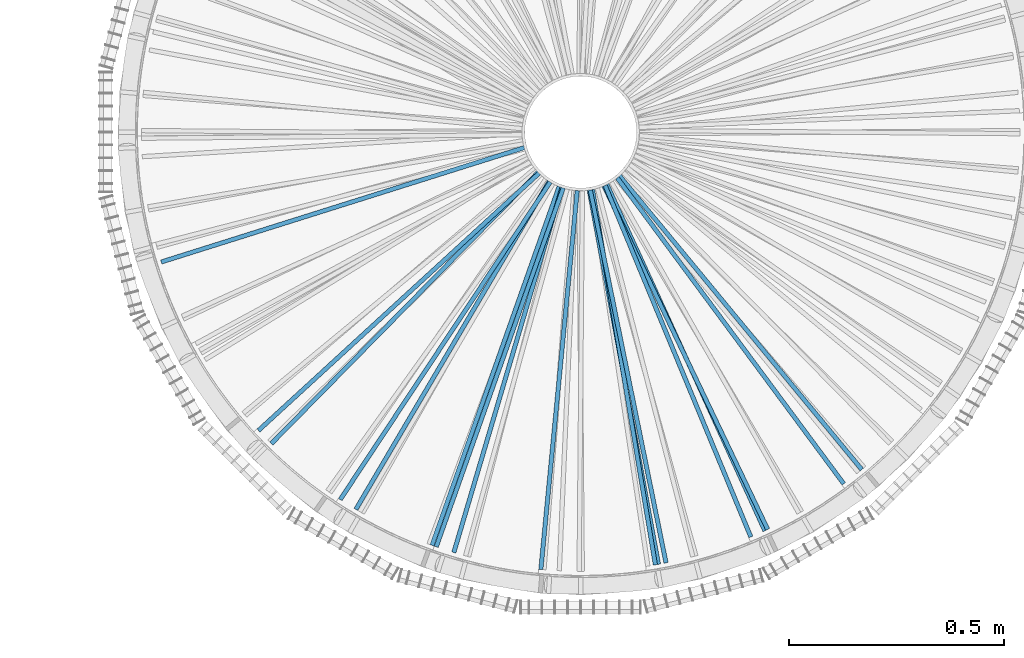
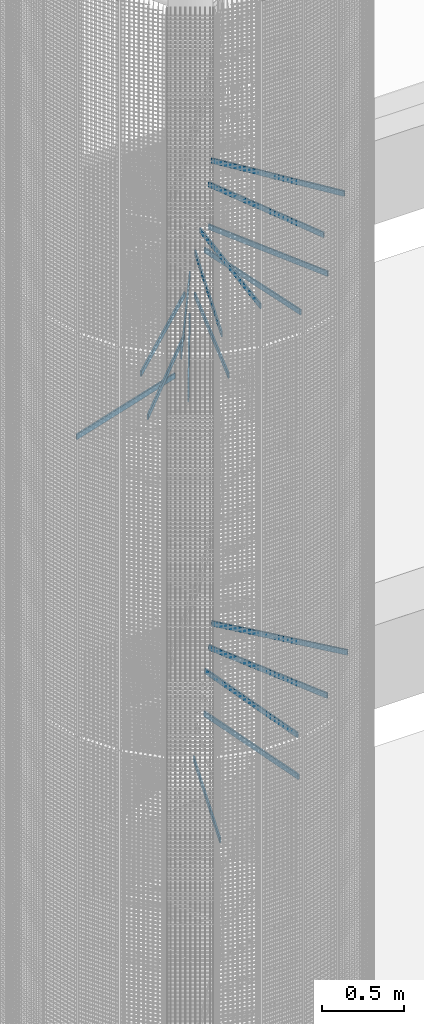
# One storey, part 176 of 1183: 17 beams, 2 elements without a shape of their own.
"""IFC2X3 building model written with IfcOpenShell, lengths in millimetres."""

from ifc_helpers import new_model, si_unit, frame, origin_with_axes, origin_2d_with_axis, place, context, subcontext, project, spatial, polyline, rectangle, outline, extrude, boolean, material, type_object, element, aggregate, save


model = new_model("IFC2X3")

# Units and contexts
model_context = context("Model", 3, precision=1e-05, world=origin_with_axes())
body_context = subcontext(model_context, "Body", "Model", "MODEL_VIEW")
ifc_project = project(units=[si_unit("LENGTHUNIT", "METRE", prefix="MILLI"), si_unit("AREAUNIT", "SQUARE_METRE"), si_unit("VOLUMEUNIT", "CUBIC_METRE"), si_unit("MASSUNIT", "GRAM", prefix="KILO"), si_unit("TIMEUNIT", "SECOND"), si_unit("PLANEANGLEUNIT", "RADIAN"), si_unit("SOLIDANGLEUNIT", "STERADIAN"), si_unit("THERMODYNAMICTEMPERATUREUNIT", "DEGREE_CELSIUS"), si_unit("LUMINOUSINTENSITYUNIT", "LUMEN")], contexts=[model_context])

# Site, building, storey
site_placement = place(None, origin_with_axes())
site = spatial("IfcSite", under=ifc_project, at=site_placement, Name="Undefined", CompositionType="ELEMENT")
building_placement = place(site_placement, origin_with_axes())
building = spatial("IfcBuilding", under=site, at=building_placement, Name="Undefined", CompositionType="ELEMENT")
storey_placement = place(building_placement, origin_with_axes())
storey = spatial("IfcBuildingStorey", under=building, at=storey_placement, Name="Undefined", CompositionType="ELEMENT", Elevation=0.0)

# Assembly, beams
assembly_1_placement = place(storey_placement, origin_with_axes())
assembly_1 = element("IfcElementAssembly", 1, at=assembly_1_placement, inside=storey, Name="POTEAU", AssemblyPlace="NOTDEFINED", PredefinedType="NOTDEFINED")
ifc_material = material(Name="STEEL/S235JR")
beam_type = type_object("IfcBeamType", Name="PL10*40", PredefinedType="NOTDEFINED")
beam_1_placement = place(assembly_1_placement, frame((36.7496182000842, -75.5993498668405, 15544.24), z_axis=(0.0, 0.0, 1.0), x_axis=(0.382921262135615, -0.923780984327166, 0.0)))
beam_1 = element("IfcBeam", 2, at=beam_1_placement, type_object=beam_type, material=ifc_material, Name="RAIDISSEUR", context=body_context, shape_type="CSG", body=[
    boolean("DIFFERENCE", extrude(rectangle(XDim=10.0, YDim=40.0, at=origin_2d_with_axis()), frame((935.982964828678, -2.59787459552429e-14, -3.63797880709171e-12), z_axis=(-1.0, 0.0, 0.0), x_axis=(0.0, -1.0, 0.0)), (0.0, 0.0, 1.0), 935.98), extrude(outline(polyline([(0.0, 0.0), (30.5663019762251, -4.91127138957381e-11), (60.366242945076, 6.80164206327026), (87.9055294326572, 20.0638634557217), (111.803226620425, 39.1216410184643), (130.861004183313, 63.0193382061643), (144.123225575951, 90.5586246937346), (150.9248676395, 120.358565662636), (150.924867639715, 150.924867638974), (144.123225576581, 180.724808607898), (130.86100418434, 208.264095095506), (111.803226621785, 232.161792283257), (87.9055294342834, 251.219569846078), (60.3662429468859, 264.481791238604), (30.5663019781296, 271.283433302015), (1.90266291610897e-09, 271.28343330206), (-29.7999409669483, 264.481791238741), (-57.3392274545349, 251.219569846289), (-81.2369246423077, 232.161792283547), (-100.294702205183, 208.26409509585), (-113.556923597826, 180.724808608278), (-120.35856566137, 150.92486763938), (-120.358565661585, 120.358565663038), (-113.556923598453, 90.5586246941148), (-100.294702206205, 63.0193382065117), (-81.2369246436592, 39.1216410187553), (-57.3392274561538, 20.0638634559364), (-29.7999409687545, 6.80164206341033), (0.0, 0.0)])), frame((-139.305621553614, -129.753815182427, -22.4999999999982), z_axis=(0.0, 0.0, 1.0), x_axis=(0.953639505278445, -0.300951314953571, 0.0)), (0.0, 0.0, 1.0), 45.0)),
])
beam_2_placement = place(assembly_1_placement, frame((53.9471355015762, -64.4631887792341, 15700.76), z_axis=(0.0, 0.0, 1.0), x_axis=(0.595029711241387, -0.80370370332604, 0.0)))
beam_2 = element("IfcBeam", 3, at=beam_2_placement, type_object=beam_type, material=ifc_material, Name="RAIDISSEUR", context=body_context, shape_type="CSG", body=[
    boolean("DIFFERENCE", extrude(rectangle(XDim=10.0, YDim=40.0, at=origin_2d_with_axis()), frame((935.982964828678, -2.59787459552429e-14, -3.63797880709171e-12), z_axis=(-1.0, 0.0, 0.0), x_axis=(0.0, -1.0, 0.0)), (0.0, 0.0, 1.0), 935.98), extrude(outline(polyline([(0.0, 0.0), (30.5663019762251, -4.91127138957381e-11), (60.366242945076, 6.80164206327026), (87.9055294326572, 20.0638634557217), (111.803226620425, 39.1216410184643), (130.861004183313, 63.0193382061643), (144.123225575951, 90.5586246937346), (150.9248676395, 120.358565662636), (150.924867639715, 150.924867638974), (144.123225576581, 180.724808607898), (130.86100418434, 208.264095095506), (111.803226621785, 232.161792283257), (87.9055294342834, 251.219569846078), (60.3662429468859, 264.481791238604), (30.5663019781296, 271.283433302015), (1.90266291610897e-09, 271.28343330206), (-29.7999409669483, 264.481791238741), (-57.3392274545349, 251.219569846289), (-81.2369246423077, 232.161792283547), (-100.294702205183, 208.26409509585), (-113.556923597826, 180.724808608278), (-120.35856566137, 150.92486763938), (-120.358565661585, 120.358565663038), (-113.556923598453, 90.5586246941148), (-100.294702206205, 63.0193382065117), (-81.2369246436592, 39.1216410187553), (-57.3392274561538, 20.0638634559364), (-29.7999409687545, 6.80164206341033), (0.0, 0.0)])), frame((-167.840798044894, -112.646547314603, -22.5), z_axis=(0.0, 0.0, 1.0), x_axis=(0.852505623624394, -0.52271805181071, 0.0)), (0.0, 0.0, 1.0), 45.0)),
])
beam_3_placement = place(assembly_1_placement, frame((-28.6460160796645, -79.0265898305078, 14761.64), z_axis=(0.0, 0.0, 1.0), x_axis=(-0.284262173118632, -0.958746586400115, 0.0)))
beam_3 = element("IfcBeam", 4, at=beam_3_placement, type_object=beam_type, material=ifc_material, Name="RAIDISSEUR", context=body_context, shape_type="CSG", body=[
    boolean("DIFFERENCE", extrude(rectangle(XDim=10.0, YDim=40.0, at=origin_2d_with_axis()), frame((935.982964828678, -2.59787459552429e-14, -3.63797880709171e-12), z_axis=(-1.0, 0.0, 0.0), x_axis=(0.0, -1.0, 0.0)), (0.0, 0.0, 1.0), 935.98), extrude(outline(polyline([(0.0, 0.0), (30.5663019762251, -4.91127138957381e-11), (60.366242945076, 6.80164206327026), (87.9055294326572, 20.0638634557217), (111.803226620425, 39.1216410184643), (130.861004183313, 63.0193382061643), (144.123225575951, 90.5586246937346), (150.9248676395, 120.358565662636), (150.924867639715, 150.924867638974), (144.123225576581, 180.724808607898), (130.86100418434, 208.264095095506), (111.803226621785, 232.161792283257), (87.9055294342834, 251.219569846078), (60.3662429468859, 264.481791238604), (30.5663019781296, 271.283433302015), (1.90266291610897e-09, 271.28343330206), (-29.7999409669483, 264.481791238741), (-57.3392274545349, 251.219569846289), (-81.2369246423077, 232.161792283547), (-100.294702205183, 208.26409509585), (-113.556923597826, 180.724808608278), (-120.35856566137, 150.92486763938), (-120.358565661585, 120.358565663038), (-113.556923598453, 90.5586246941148), (-100.294702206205, 63.0193382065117), (-81.2369246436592, 39.1216410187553), (-57.3392274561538, 20.0638634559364), (-29.7999409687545, 6.80164206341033), (0.0, 0.0)])), frame((-48.3823783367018, -126.795588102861, -22.5), z_axis=(0.0, 0.0, 1.0), x_axis=(0.930323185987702, 0.366740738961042, 0.0)), (0.0, 0.0, 1.0), 45.0)),
])
beam_4_placement = place(assembly_1_placement, frame((-46.9133693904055, -69.7490638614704, 14605.12), z_axis=(0.0, 0.0, 1.0), x_axis=(-0.507760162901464, -0.861498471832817, 0.0)))
beam_4 = element("IfcBeam", 5, at=beam_4_placement, type_object=beam_type, material=ifc_material, Name="RAIDISSEUR", context=body_context, shape_type="CSG", body=[
    boolean("DIFFERENCE", extrude(rectangle(XDim=10.0, YDim=40.0, at=origin_2d_with_axis()), frame((935.982964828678, -2.59787459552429e-14, -3.63797880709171e-12), z_axis=(-1.0, 0.0, 0.0), x_axis=(0.0, -1.0, 0.0)), (0.0, 0.0, 1.0), 935.98), extrude(outline(polyline([(0.0, 0.0), (30.5663019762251, -4.91127138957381e-11), (60.366242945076, 6.80164206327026), (87.9055294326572, 20.0638634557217), (111.803226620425, 39.1216410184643), (130.861004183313, 63.0193382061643), (144.123225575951, 90.5586246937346), (150.9248676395, 120.358565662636), (150.924867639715, 150.924867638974), (144.123225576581, 180.724808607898), (130.86100418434, 208.264095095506), (111.803226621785, 232.161792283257), (87.9055294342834, 251.219569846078), (60.3662429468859, 264.481791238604), (30.5663019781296, 271.283433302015), (1.90266291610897e-09, 271.28343330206), (-29.7999409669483, 264.481791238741), (-57.3392274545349, 251.219569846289), (-81.2369246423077, 232.161792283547), (-100.294702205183, 208.26409509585), (-113.556923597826, 180.724808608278), (-120.35856566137, 150.92486763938), (-120.358565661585, 120.358565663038), (-113.556923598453, 90.5586246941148), (-100.294702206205, 63.0193382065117), (-81.2369246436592, 39.1216410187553), (-57.3392274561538, 20.0638634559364), (-29.7999409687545, 6.80164206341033), (0.0, 0.0)])), frame((-17.5534458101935, -114.285918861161, -22.5000000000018), z_axis=(0.0, 0.0, 1.0), x_axis=(0.813965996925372, 0.580912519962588, 0.0)), (0.0, 0.0, 1.0), 45.0)),
])
beam_5_placement = place(assembly_1_placement, frame((-62.3936675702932, -56.3278473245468, 14448.6), z_axis=(0.0, 0.0, 1.0), x_axis=(-0.701092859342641, -0.713069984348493, 0.0)))
beam_5 = element("IfcBeam", 6, at=beam_5_placement, type_object=beam_type, material=ifc_material, Name="RAIDISSEUR", context=body_context, shape_type="CSG", body=[
    boolean("DIFFERENCE", extrude(rectangle(XDim=10.0, YDim=40.0, at=origin_2d_with_axis()), frame((935.982964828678, -2.59787459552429e-14, -3.63797880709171e-12), z_axis=(-1.0, 0.0, 0.0), x_axis=(0.0, -1.0, 0.0)), (0.0, 0.0, 1.0), 935.98), extrude(outline(polyline([(0.0, 0.0), (30.5663019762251, -4.91127138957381e-11), (60.366242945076, 6.80164206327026), (87.9055294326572, 20.0638634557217), (111.803226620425, 39.1216410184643), (130.861004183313, 63.0193382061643), (144.123225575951, 90.5586246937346), (150.9248676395, 120.358565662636), (150.924867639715, 150.924867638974), (144.123225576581, 180.724808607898), (130.86100418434, 208.264095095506), (111.803226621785, 232.161792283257), (87.9055294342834, 251.219569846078), (60.3662429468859, 264.481791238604), (30.5663019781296, 271.283433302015), (1.90266291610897e-09, 271.28343330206), (-29.7999409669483, 264.481791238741), (-57.3392274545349, 251.219569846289), (-81.2369246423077, 232.161792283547), (-100.294702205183, 208.26409509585), (-113.556923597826, 180.724808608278), (-120.35856566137, 150.92486763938), (-120.358565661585, 120.358565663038), (-113.556923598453, 90.5586246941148), (-100.294702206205, 63.0193382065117), (-81.2369246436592, 39.1216410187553), (-57.3392274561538, 20.0638634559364), (-29.7999409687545, 6.80164206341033), (0.0, 0.0)])), frame((9.33337282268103, -94.6896464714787, -22.5), z_axis=(0.0, 0.0, 1.0), x_axis=(0.649252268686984, 0.760573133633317, 0.0)), (0.0, 0.0, 1.0), 45.0)),
])
beam_6_placement = place(assembly_1_placement, frame((-81.5346611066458, -20.4424845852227, 14135.56), z_axis=(0.0, 0.0, 1.0), x_axis=(-0.953794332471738, -0.300460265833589, 0.0)))
beam_6 = element("IfcBeam", 7, at=beam_6_placement, type_object=beam_type, material=ifc_material, Name="RAIDISSEUR", context=body_context, shape_type="CSG", body=[
    boolean("DIFFERENCE", extrude(rectangle(XDim=10.0, YDim=40.0, at=origin_2d_with_axis()), frame((935.982964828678, -2.59787459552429e-14, -3.63797880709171e-12), z_axis=(-1.0, 0.0, 0.0), x_axis=(0.0, -1.0, 0.0)), (0.0, 0.0, 1.0), 935.98), extrude(outline(polyline([(0.0, 0.0), (30.5663019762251, -4.91127138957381e-11), (60.366242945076, 6.80164206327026), (87.9055294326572, 20.0638634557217), (111.803226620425, 39.1216410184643), (130.861004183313, 63.0193382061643), (144.123225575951, 90.5586246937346), (150.9248676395, 120.358565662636), (150.924867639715, 150.924867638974), (144.123225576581, 180.724808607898), (130.86100418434, 208.264095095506), (111.803226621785, 232.161792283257), (87.9055294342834, 251.219569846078), (60.3662429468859, 264.481791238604), (30.5663019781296, 271.283433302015), (1.90266291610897e-09, 271.28343330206), (-29.7999409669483, 264.481791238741), (-57.3392274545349, 251.219569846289), (-81.2369246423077, 232.161792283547), (-100.294702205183, 208.26409509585), (-113.556923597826, 180.724808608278), (-120.35856566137, 150.92486763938), (-120.358565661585, 120.358565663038), (-113.556923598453, 90.5586246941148), (-100.294702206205, 63.0193382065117), (-81.2369246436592, 39.1216410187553), (-57.3392274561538, 20.0638634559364), (-29.7999409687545, 6.80164206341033), (0.0, 0.0)])), frame((45.2205298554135, -39.2458786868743, -22.5), z_axis=(0.0, 0.0, 1.0), x_axis=(0.216188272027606, 0.97635169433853, 0.0)), (0.0, 0.0, 1.0), 45.0)),
])
beam_7_placement = place(assembly_1_placement, frame((-58.4710415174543, -60.3898455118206, 14761.64), z_axis=(0.0, 0.0, 1.0), x_axis=(-0.737103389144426, -0.675779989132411, 0.0)))
beam_7 = element("IfcBeam", 8, at=beam_7_placement, type_object=beam_type, material=ifc_material, Name="RAIDISSEUR", context=body_context, shape_type="CSG", body=[
    boolean("DIFFERENCE", extrude(rectangle(XDim=10.0, YDim=40.0, at=origin_2d_with_axis()), frame((935.982964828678, -2.59787459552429e-14, -3.63797880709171e-12), z_axis=(-1.0, 0.0, 0.0), x_axis=(0.0, -1.0, 0.0)), (0.0, 0.0, 1.0), 935.98), extrude(outline(polyline([(0.0, 0.0), (30.5663019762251, -4.91127138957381e-11), (60.366242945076, 6.80164206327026), (87.9055294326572, 20.0638634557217), (111.803226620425, 39.1216410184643), (130.861004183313, 63.0193382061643), (144.123225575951, 90.5586246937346), (150.9248676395, 120.358565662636), (150.924867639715, 150.924867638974), (144.123225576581, 180.724808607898), (130.86100418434, 208.264095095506), (111.803226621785, 232.161792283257), (87.9055294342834, 251.219569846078), (60.3662429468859, 264.481791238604), (30.5663019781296, 271.283433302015), (1.90266291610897e-09, 271.28343330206), (-29.7999409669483, 264.481791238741), (-57.3392274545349, 251.219569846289), (-81.2369246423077, 232.161792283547), (-100.294702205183, 208.26409509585), (-113.556923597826, 180.724808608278), (-120.35856566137, 150.92486763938), (-120.358565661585, 120.358565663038), (-113.556923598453, 90.5586246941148), (-100.294702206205, 63.0193382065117), (-81.2369246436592, 39.1216410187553), (-57.3392274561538, 20.0638634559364), (-29.7999409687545, 6.80164206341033), (0.0, 0.0)])), frame((14.3741816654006, -99.7236894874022, -22.5), z_axis=(0.0, 0.0, 1.0), x_axis=(0.608965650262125, 0.793196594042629, 0.0)), (0.0, 0.0, 1.0), 45.0)),
])
beam_8_placement = place(assembly_1_placement, frame((-3.0437579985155, -84.003164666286, 15231.2), z_axis=(0.0, 0.0, 1.0), x_axis=(-0.0955894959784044, -0.995420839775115, 0.0)))
beam_8 = element("IfcBeam", 9, at=beam_8_placement, type_object=beam_type, material=ifc_material, Name="RAIDISSEUR", context=body_context, shape_type="CSG", body=[
    boolean("DIFFERENCE", extrude(rectangle(XDim=10.0, YDim=40.0, at=origin_2d_with_axis()), frame((935.982964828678, -2.59787459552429e-14, -3.63797880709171e-12), z_axis=(-1.0, 0.0, 0.0), x_axis=(0.0, -1.0, 0.0)), (0.0, 0.0, 1.0), 935.98), extrude(outline(polyline([(0.0, 0.0), (30.5663019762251, -4.91127138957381e-11), (60.366242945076, 6.80164206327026), (87.9055294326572, 20.0638634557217), (111.803226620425, 39.1216410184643), (130.861004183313, 63.0193382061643), (144.123225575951, 90.5586246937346), (150.9248676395, 120.358565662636), (150.924867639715, 150.924867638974), (144.123225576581, 180.724808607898), (130.86100418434, 208.264095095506), (111.803226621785, 232.161792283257), (87.9055294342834, 251.219569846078), (60.3662429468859, 264.481791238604), (30.5663019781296, 271.283433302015), (1.90266291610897e-09, 271.28343330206), (-29.7999409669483, 264.481791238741), (-57.3392274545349, 251.219569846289), (-81.2369246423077, 232.161792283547), (-100.294702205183, 208.26409509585), (-113.556923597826, 180.724808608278), (-120.35856566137, 150.92486763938), (-120.358565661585, 120.358565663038), (-113.556923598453, 90.5586246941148), (-100.294702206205, 63.0193382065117), (-81.2369246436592, 39.1216410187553), (-57.3392274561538, 20.0638634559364), (-29.7999409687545, 6.80164206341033), (0.0, 0.0)])), frame((-74.2529979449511, -141.15800711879, -22.5), z_axis=(0.0, 0.0, 1.0), x_axis=(0.983301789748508, 0.181982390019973, 0.0)), (0.0, 0.0, 1.0), 45.0)),
])
beam_9_placement = place(assembly_1_placement, frame((11.8078056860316, -83.2248271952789, 15074.68), z_axis=(0.0, 0.0, 1.0), x_axis=(0.199115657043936, -0.979975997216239, 0.0)))
beam_9 = element("IfcBeam", 10, at=beam_9_placement, type_object=beam_type, material=ifc_material, Name="RAIDISSEUR", context=body_context, shape_type="CSG", body=[
    boolean("DIFFERENCE", extrude(rectangle(XDim=10.0, YDim=40.0, at=origin_2d_with_axis()), frame((935.982964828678, -2.59787459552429e-14, -3.63797880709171e-12), z_axis=(-1.0, 0.0, 0.0), x_axis=(0.0, -1.0, 0.0)), (0.0, 0.0, 1.0), 935.98), extrude(outline(polyline([(0.0, 0.0), (30.5663019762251, -4.91127138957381e-11), (60.366242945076, 6.80164206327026), (87.9055294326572, 20.0638634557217), (111.803226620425, 39.1216410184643), (130.861004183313, 63.0193382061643), (144.123225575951, 90.5586246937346), (150.9248676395, 120.358565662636), (150.924867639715, 150.924867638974), (144.123225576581, 180.724808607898), (130.86100418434, 208.264095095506), (111.803226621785, 232.161792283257), (87.9055294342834, 251.219569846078), (60.3662429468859, 264.481791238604), (30.5663019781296, 271.283433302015), (1.90266291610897e-09, 271.28343330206), (-29.7999409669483, 264.481791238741), (-57.3392274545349, 251.219569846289), (-81.2369246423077, 232.161792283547), (-100.294702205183, 208.26409509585), (-113.556923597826, 180.724808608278), (-120.35856566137, 150.92486763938), (-120.358565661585, 120.358565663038), (-113.556923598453, 90.5586246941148), (-100.294702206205, 63.0193382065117), (-81.2369246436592, 39.1216410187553), (-57.3392274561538, 20.0638634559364), (-29.7999409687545, 6.80164206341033), (0.0, 0.0)])), frame((-114.415188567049, -128.047548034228, -22.5), z_axis=(0.0, 0.0, 1.0), x_axis=(0.993600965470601, -0.112947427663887, 0.0)), (0.0, 0.0, 1.0), 45.0)),
])
beam_10_placement = place(assembly_1_placement, frame((31.5909713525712, -77.896127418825, 15231.2), z_axis=(0.0, 0.0, 1.0), x_axis=(0.430278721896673, -0.902696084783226, 0.0)))
beam_10 = element("IfcBeam", 11, at=beam_10_placement, type_object=beam_type, material=ifc_material, Name="RAIDISSEUR", context=body_context, shape_type="CSG", body=[
    boolean("DIFFERENCE", extrude(rectangle(XDim=10.0, YDim=40.0, at=origin_2d_with_axis()), frame((935.982964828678, -2.59787459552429e-14, -3.63797880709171e-12), z_axis=(-1.0, 0.0, 0.0), x_axis=(0.0, -1.0, 0.0)), (0.0, 0.0, 1.0), 935.98), extrude(outline(polyline([(0.0, 0.0), (30.5663019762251, -4.91127138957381e-11), (60.366242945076, 6.80164206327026), (87.9055294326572, 20.0638634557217), (111.803226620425, 39.1216410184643), (130.861004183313, 63.0193382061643), (144.123225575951, 90.5586246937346), (150.9248676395, 120.358565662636), (150.924867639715, 150.924867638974), (144.123225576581, 180.724808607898), (130.86100418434, 208.264095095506), (111.803226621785, 232.161792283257), (87.9055294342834, 251.219569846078), (60.3662429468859, 264.481791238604), (30.5663019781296, 271.283433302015), (1.90266291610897e-09, 271.28343330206), (-29.7999409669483, 264.481791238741), (-57.3392274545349, 251.219569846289), (-81.2369246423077, 232.161792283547), (-100.294702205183, 208.26409509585), (-113.556923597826, 180.724808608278), (-120.35856566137, 150.92486763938), (-120.358565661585, 120.358565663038), (-113.556923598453, 90.5586246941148), (-100.294702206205, 63.0193382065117), (-81.2369246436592, 39.1216410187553), (-57.3392274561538, 20.0638634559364), (-29.7999409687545, 6.80164206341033), (0.0, 0.0)])), frame((-145.696152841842, -116.715461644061, -22.5), z_axis=(0.0, 0.0, 1.0), x_axis=(0.936762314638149, -0.349966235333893, 0.0)), (0.0, 0.0, 1.0), 45.0)),
])
beam_11_placement = place(assembly_1_placement, frame((-42.1245757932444, -72.741434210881, 14918.16), z_axis=(0.0, 0.0, 1.0), x_axis=(-0.551722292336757, -0.83402788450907, 0.0)))
beam_11 = element("IfcBeam", 12, at=beam_11_placement, type_object=beam_type, material=ifc_material, Name="RAIDISSEUR", context=body_context, shape_type="CSG", body=[
    boolean("DIFFERENCE", extrude(rectangle(XDim=10.0, YDim=40.0, at=origin_2d_with_axis()), frame((935.982964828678, -2.59787459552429e-14, -3.63797880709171e-12), z_axis=(-1.0, 0.0, 0.0), x_axis=(0.0, -1.0, 0.0)), (0.0, 0.0, 1.0), 935.98), extrude(outline(polyline([(0.0, 0.0), (30.5663019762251, -4.91127138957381e-11), (60.366242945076, 6.80164206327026), (87.9055294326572, 20.0638634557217), (111.803226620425, 39.1216410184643), (130.861004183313, 63.0193382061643), (144.123225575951, 90.5586246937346), (150.9248676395, 120.358565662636), (150.924867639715, 150.924867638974), (144.123225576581, 180.724808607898), (130.86100418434, 208.264095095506), (111.803226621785, 232.161792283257), (87.9055294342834, 251.219569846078), (60.3662429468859, 264.481791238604), (30.5663019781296, 271.283433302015), (1.90266291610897e-09, 271.28343330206), (-29.7999409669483, 264.481791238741), (-57.3392274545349, 251.219569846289), (-81.2369246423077, 232.161792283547), (-100.294702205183, 208.26409509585), (-113.556923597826, 180.724808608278), (-120.35856566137, 150.92486763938), (-120.358565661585, 120.358565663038), (-113.556923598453, 90.5586246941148), (-100.294702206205, 63.0193382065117), (-81.2369246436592, 39.1216410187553), (-57.3392274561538, 20.0638634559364), (-29.7999409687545, 6.80164206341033), (0.0, 0.0)])), frame((-11.4609968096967, -120.686954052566, -22.5000000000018), z_axis=(0.0, 0.0, 1.0), x_axis=(0.782768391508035, 0.622313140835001, 0.0)), (0.0, 0.0, 1.0), 45.0)),
])
beam_12_placement = place(assembly_1_placement, frame((-23.275550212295, -80.7715599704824, 15074.68), z_axis=(0.0, 0.0, 1.0), x_axis=(-0.333564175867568, -0.942727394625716, 0.0)))
beam_12 = element("IfcBeam", 13, at=beam_12_placement, type_object=beam_type, material=ifc_material, Name="RAIDISSEUR", context=body_context, shape_type="CSG", body=[
    boolean("DIFFERENCE", extrude(rectangle(XDim=10.0, YDim=40.0, at=origin_2d_with_axis()), frame((935.982964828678, -2.59787459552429e-14, -3.63797880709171e-12), z_axis=(-1.0, 0.0, 0.0), x_axis=(0.0, -1.0, 0.0)), (0.0, 0.0, 1.0), 935.98), extrude(outline(polyline([(0.0, 0.0), (30.5663019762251, -4.91127138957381e-11), (60.366242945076, 6.80164206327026), (87.9055294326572, 20.0638634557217), (111.803226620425, 39.1216410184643), (130.861004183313, 63.0193382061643), (144.123225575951, 90.5586246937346), (150.9248676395, 120.358565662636), (150.924867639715, 150.924867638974), (144.123225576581, 180.724808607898), (130.86100418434, 208.264095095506), (111.803226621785, 232.161792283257), (87.9055294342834, 251.219569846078), (60.3662429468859, 264.481791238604), (30.5663019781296, 271.283433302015), (1.90266291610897e-09, 271.28343330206), (-29.7999409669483, 264.481791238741), (-57.3392274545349, 251.219569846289), (-81.2369246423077, 232.161792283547), (-100.294702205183, 208.26409509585), (-113.556923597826, 180.724808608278), (-120.35856566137, 150.92486763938), (-120.358565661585, 120.358565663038), (-113.556923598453, 90.5586246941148), (-100.294702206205, 63.0193382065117), (-81.2369246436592, 39.1216410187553), (-57.3392274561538, 20.0638634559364), (-29.7999409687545, 6.80164206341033), (0.0, 0.0)])), frame((-41.6002327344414, -134.777424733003, -22.4999999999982), z_axis=(0.0, 0.0, 1.0), x_axis=(0.910067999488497, 0.414458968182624, 0.0)), (0.0, 0.0, 1.0), 45.0)),
])
aggregate(assembly_1, [beam_1, beam_2, beam_3, beam_4, beam_5, beam_6, beam_7, beam_8, beam_9, beam_10, beam_11, beam_12])

assembly_2_placement = place(storey_placement, origin_with_axes())
assembly_2 = element("IfcElementAssembly", 14, at=assembly_2_placement, inside=storey, Name="POTEAU", AssemblyPlace="NOTDEFINED", PredefinedType="NOTDEFINED")
beam_13_placement = place(assembly_2_placement, frame((-32.7426898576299, -77.419069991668, 11318.16), z_axis=(0.0, 0.0, 1.0), x_axis=(-0.33404952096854, -0.942555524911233, 0.0)))
beam_13 = element("IfcBeam", 15, at=beam_13_placement, type_object=beam_type, material=ifc_material, Name="RAIDISSEUR", context=body_context, shape_type="CSG", body=[
    boolean("DIFFERENCE", extrude(rectangle(XDim=10.0, YDim=40.0, at=origin_2d_with_axis()), frame((935.982964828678, -2.59787459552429e-14, -3.63797880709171e-12), z_axis=(-1.0, 0.0, 0.0), x_axis=(0.0, -1.0, 0.0)), (0.0, 0.0, 1.0), 935.98), extrude(outline(polyline([(0.0, 0.0), (30.5663019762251, -4.91127138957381e-11), (60.366242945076, 6.80164206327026), (87.9055294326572, 20.0638634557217), (111.803226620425, 39.1216410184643), (130.861004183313, 63.0193382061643), (144.123225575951, 90.5586246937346), (150.9248676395, 120.358565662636), (150.924867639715, 150.924867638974), (144.123225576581, 180.724808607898), (130.86100418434, 208.264095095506), (111.803226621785, 232.161792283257), (87.9055294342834, 251.219569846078), (60.3662429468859, 264.481791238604), (30.5663019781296, 271.283433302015), (1.90266291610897e-09, 271.28343330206), (-29.7999409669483, 264.481791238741), (-57.3392274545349, 251.219569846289), (-81.2369246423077, 232.161792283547), (-100.294702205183, 208.26409509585), (-113.556923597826, 180.724808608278), (-120.35856566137, 150.92486763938), (-120.358565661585, 120.358565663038), (-113.556923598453, 90.5586246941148), (-100.294702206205, 63.0193382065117), (-81.2369246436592, 39.1216410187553), (-57.3392274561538, 20.0638634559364), (-29.7999409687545, 6.80164206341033), (0.0, 0.0)])), frame((-41.5334188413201, -124.755623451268, -22.5000000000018), z_axis=(0.0, 0.0, 1.0), x_axis=(0.909854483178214, 0.414927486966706, 0.0)), (0.0, 0.0, 1.0), 45.0)),
])
beam_14_placement = place(assembly_2_placement, frame((18.8015744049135, -81.9286087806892, 11944.24), z_axis=(0.0, 0.0, 1.0), x_axis=(0.165301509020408, -0.986243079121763, 0.0)))
beam_14 = element("IfcBeam", 16, at=beam_14_placement, type_object=beam_type, material=ifc_material, Name="RAIDISSEUR", context=body_context, shape_type="CSG", body=[
    boolean("DIFFERENCE", extrude(rectangle(XDim=10.0, YDim=40.0, at=origin_2d_with_axis()), frame((935.982964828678, -2.59787459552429e-14, -3.63797880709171e-12), z_axis=(-1.0, 0.0, 0.0), x_axis=(0.0, -1.0, 0.0)), (0.0, 0.0, 1.0), 935.98), extrude(outline(polyline([(0.0, 0.0), (30.5663019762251, -4.91127138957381e-11), (60.366242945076, 6.80164206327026), (87.9055294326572, 20.0638634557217), (111.803226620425, 39.1216410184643), (130.861004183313, 63.0193382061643), (144.123225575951, 90.5586246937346), (150.9248676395, 120.358565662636), (150.924867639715, 150.924867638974), (144.123225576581, 180.724808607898), (130.86100418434, 208.264095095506), (111.803226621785, 232.161792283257), (87.9055294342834, 251.219569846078), (60.3662429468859, 264.481791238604), (30.5663019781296, 271.283433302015), (1.90266291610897e-09, 271.28343330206), (-29.7999409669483, 264.481791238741), (-57.3392274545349, 251.219569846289), (-81.2369246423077, 232.161792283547), (-100.294702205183, 208.26409509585), (-113.556923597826, 180.724808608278), (-120.35856566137, 150.92486763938), (-120.358565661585, 120.358565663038), (-113.556923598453, 90.5586246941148), (-100.294702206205, 63.0193382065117), (-81.2369246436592, 39.1216410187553), (-57.3392274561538, 20.0638634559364), (-29.7999409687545, 6.80164206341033), (0.0, 0.0)])), frame((-109.822319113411, -139.017809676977, -22.5), z_axis=(0.0, 0.0, 1.0), x_axis=(0.996897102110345, -0.0787157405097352, 0.0)), (0.0, 0.0, 1.0), 45.0)),
])
beam_15_placement = place(assembly_2_placement, frame((10.3535337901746, -83.4182262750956, 11631.2), z_axis=(0.0, 0.0, 1.0), x_axis=(0.181982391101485, -0.983301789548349, 0.0)))
beam_15 = element("IfcBeam", 17, at=beam_15_placement, type_object=beam_type, material=ifc_material, Name="RAIDISSEUR", context=body_context, shape_type="CSG", body=[
    boolean("DIFFERENCE", extrude(rectangle(XDim=10.0, YDim=40.0, at=origin_2d_with_axis()), frame((935.982964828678, -2.59787459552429e-14, -3.63797880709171e-12), z_axis=(-1.0, 0.0, 0.0), x_axis=(0.0, -1.0, 0.0)), (0.0, 0.0, 1.0), 935.98), extrude(outline(polyline([(0.0, 0.0), (30.5663019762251, -4.91127138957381e-11), (60.366242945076, 6.80164206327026), (87.9055294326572, 20.0638634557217), (111.803226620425, 39.1216410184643), (130.861004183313, 63.0193382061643), (144.123225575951, 90.5586246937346), (150.9248676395, 120.358565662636), (150.924867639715, 150.924867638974), (144.123225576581, 180.724808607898), (130.86100418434, 208.264095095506), (111.803226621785, 232.161792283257), (87.9055294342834, 251.219569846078), (60.3662429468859, 264.481791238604), (30.5663019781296, 271.283433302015), (1.90266291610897e-09, 271.28343330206), (-29.7999409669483, 264.481791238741), (-57.3392274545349, 251.219569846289), (-81.2369246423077, 232.161792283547), (-100.294702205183, 208.26409509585), (-113.556923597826, 180.724808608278), (-120.35856566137, 150.92486763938), (-120.358565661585, 120.358565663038), (-113.556923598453, 90.5586246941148), (-100.294702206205, 63.0193382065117), (-81.2369246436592, 39.1216410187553), (-57.3392274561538, 20.0638634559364), (-29.7999409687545, 6.80164206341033), (0.0, 0.0)])), frame((-112.088542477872, -128.559682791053, -22.5), z_axis=(0.0, 0.0, 1.0), x_axis=(0.995420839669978, -0.0955894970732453, 0.0)), (0.0, 0.0, 1.0), 45.0)),
])
beam_16_placement = place(assembly_2_placement, frame((39.3656105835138, -74.2707535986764, 12100.76), z_axis=(0.0, 0.0, 1.0), x_axis=(0.414927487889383, -0.909854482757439, 0.0)))
beam_16 = element("IfcBeam", 18, at=beam_16_placement, type_object=beam_type, material=ifc_material, Name="RAIDISSEUR", context=body_context, shape_type="CSG", body=[
    boolean("DIFFERENCE", extrude(rectangle(XDim=10.0, YDim=40.0, at=origin_2d_with_axis()), frame((935.982964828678, -2.59787459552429e-14, -3.63797880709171e-12), z_axis=(-1.0, 0.0, 0.0), x_axis=(0.0, -1.0, 0.0)), (0.0, 0.0, 1.0), 935.98), extrude(outline(polyline([(0.0, 0.0), (30.5663019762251, -4.91127138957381e-11), (60.366242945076, 6.80164206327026), (87.9055294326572, 20.0638634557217), (111.803226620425, 39.1216410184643), (130.861004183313, 63.0193382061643), (144.123225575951, 90.5586246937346), (150.9248676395, 120.358565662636), (150.924867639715, 150.924867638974), (144.123225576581, 180.724808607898), (130.86100418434, 208.264095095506), (111.803226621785, 232.161792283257), (87.9055294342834, 251.219569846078), (60.3662429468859, 264.481791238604), (30.5663019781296, 271.283433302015), (1.90266291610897e-09, 271.28343330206), (-29.7999409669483, 264.481791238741), (-57.3392274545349, 251.219569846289), (-81.2369246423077, 232.161792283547), (-100.294702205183, 208.26409509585), (-113.556923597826, 180.724808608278), (-120.35856566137, 150.92486763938), (-120.358565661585, 120.358565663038), (-113.556923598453, 90.5586246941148), (-100.294702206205, 63.0193382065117), (-81.2369246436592, 39.1216410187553), (-57.3392274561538, 20.0638634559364), (-29.7999409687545, 6.80164206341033), (0.0, 0.0)])), frame((-143.625721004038, -127.744520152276, -22.5), z_axis=(0.0, 0.0, 1.0), x_axis=(0.942555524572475, -0.334049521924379, 0.0)), (0.0, 0.0, 1.0), 45.0)),
])
beam_17_placement = place(assembly_2_placement, frame((57.246945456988, -61.5514692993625, 12257.28), z_axis=(0.0, 0.0, 1.0), x_axis=(0.636276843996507, -0.771460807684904, 0.0)))
beam_17 = element("IfcBeam", 19, at=beam_17_placement, type_object=beam_type, material=ifc_material, Name="RAIDISSEUR", context=body_context, shape_type="CSG", body=[
    boolean("DIFFERENCE", extrude(rectangle(XDim=10.0, YDim=40.0, at=origin_2d_with_axis()), frame((935.982964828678, -2.59787459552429e-14, -3.63797880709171e-12), z_axis=(-1.0, 0.0, 0.0), x_axis=(0.0, -1.0, 0.0)), (0.0, 0.0, 1.0), 935.98), extrude(outline(polyline([(0.0, 0.0), (30.5663019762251, -4.91127138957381e-11), (60.366242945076, 6.80164206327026), (87.9055294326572, 20.0638634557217), (111.803226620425, 39.1216410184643), (130.861004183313, 63.0193382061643), (144.123225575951, 90.5586246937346), (150.9248676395, 120.358565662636), (150.924867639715, 150.924867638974), (144.123225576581, 180.724808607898), (130.86100418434, 208.264095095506), (111.803226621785, 232.161792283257), (87.9055294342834, 251.219569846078), (60.3662429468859, 264.481791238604), (30.5663019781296, 271.283433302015), (1.90266291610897e-09, 271.28343330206), (-29.7999409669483, 264.481791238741), (-57.3392274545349, 251.219569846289), (-81.2369246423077, 232.161792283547), (-100.294702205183, 208.26409509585), (-113.556923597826, 180.724808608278), (-120.35856566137, 150.92486763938), (-120.358565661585, 120.358565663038), (-113.556923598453, 90.5586246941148), (-100.294702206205, 63.0193382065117), (-81.2369246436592, 39.1216410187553), (-57.3392274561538, 20.0638634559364), (-29.7999409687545, 6.80164206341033), (0.0, 0.0)])), frame((-173.359557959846, -108.106394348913, -22.5), z_axis=(0.0, 0.0, 1.0), x_axis=(0.823980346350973, -0.56661838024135, 0.0)), (0.0, 0.0, 1.0), 45.0)),
])
aggregate(assembly_2, [beam_13, beam_14, beam_15, beam_16, beam_17])

save(model, "model.ifc")
